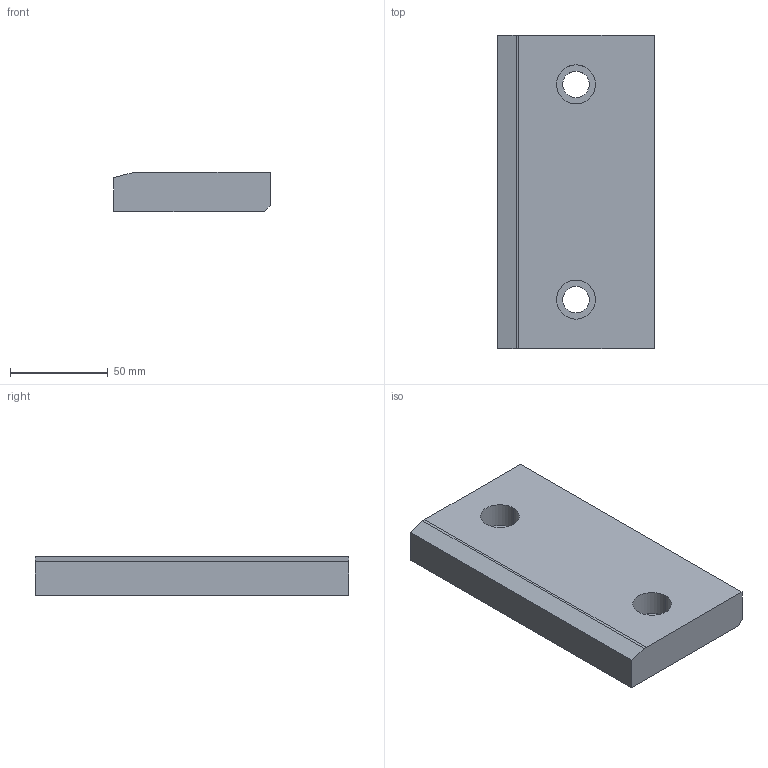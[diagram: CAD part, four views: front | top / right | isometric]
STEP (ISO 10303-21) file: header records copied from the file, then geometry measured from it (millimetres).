
FILE_DESCRIPTION (( 'STEP AP214' ), '1' );
FILE_NAME ('SW225-01-160x80.STEP', '2020-10-21T10:36:32', ( 'August' ), ( '' ), 'SwSTEP 2.0', 'SolidWorks 2018', '' );
FILE_SCHEMA (( 'AUTOMOTIVE_DESIGN' ));
Length unit declared in the file: millimetre
Products named in the file (1): SW225-01-160x80
Bounding box: 80 x 160 x 20 mm (x, y, z)
Volume: 242961.3 mm3; surface area: 36164.3 mm2
Topology: 1 solids, 1 shells, 19 faces, 45 edges, 30 vertices
Faces by surface type: plane 10, cylinder 9
Entity records: 599 total; most frequent: DIRECTION 103, CARTESIAN_POINT 95, ORIENTED_EDGE 90, EDGE_CURVE 45, AXIS2_PLACEMENT_3D 38, VERTEX_POINT 30, VECTOR 27, LINE 27
